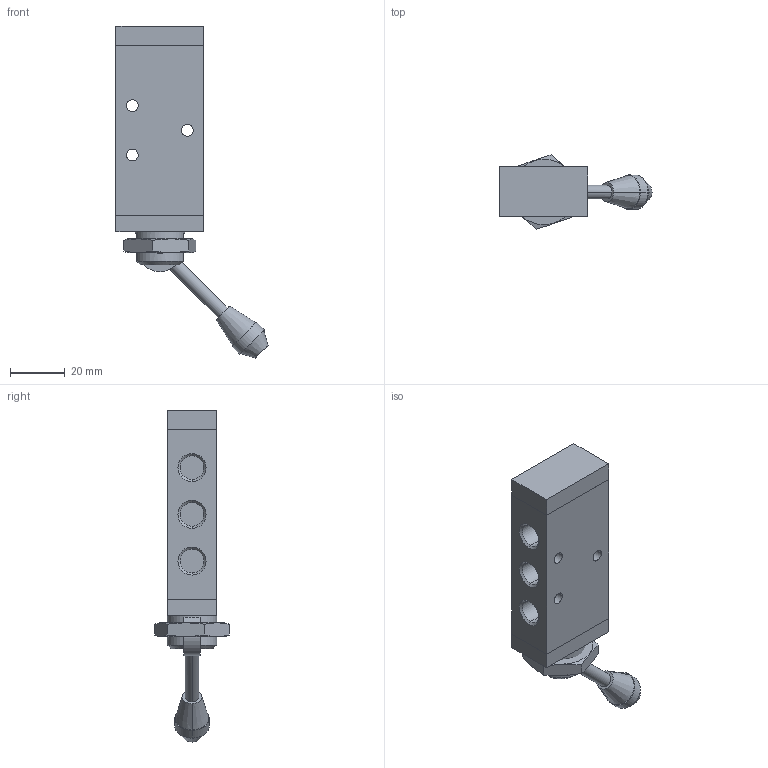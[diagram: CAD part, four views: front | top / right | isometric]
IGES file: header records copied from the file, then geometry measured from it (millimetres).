
Global section: file name: No Iges File Name specified; native system: AutoDesk Inventor R11.0; preprocessor: AutoDesk Inventor Iges Exporter R11.0; author: No Author specified; organization: No Organization specified; date: 20061219.114409; units: millimetre
Bounding box: 55.42 x 27.21 x 120.92 mm (x, y, z)
Volume: 46371.8 mm3; surface area: 14365.9 mm2
Topology: 3 solids, 3 shells, 99 faces, 230 edges, 148 vertices
Faces by surface type: plane 39, bspline 33, revolution 10, cone 10, cylinder 7
